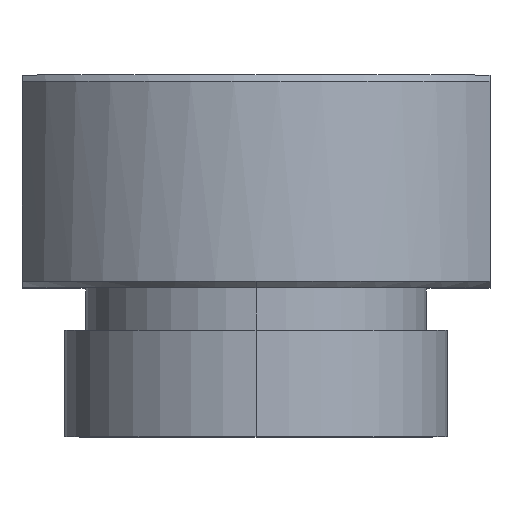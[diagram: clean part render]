
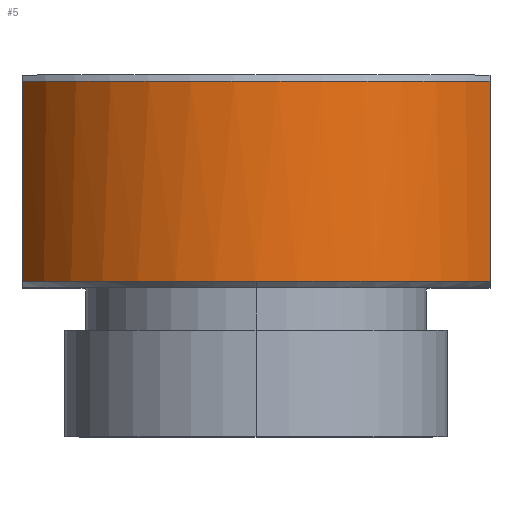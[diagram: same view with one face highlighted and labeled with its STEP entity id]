
A CAD part, top view. The second image highlights one B-rep face of the part: STEP entity #5.
In plain terms, the highlighted cylindrical face has radius 12.5 mm (diameter 25 mm), a partial arc.
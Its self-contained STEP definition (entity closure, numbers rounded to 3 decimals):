
#5 = ADVANCED_FACE ( 'NONE', ( #183 ), #895, .T. ) ;
#6 = LINE ( 'NONE', #238, #605 ) ;
#69 = CARTESIAN_POINT ( 'NONE',  ( 0., 0.3, 0. ) ) ;
#85 = VERTEX_POINT ( 'NONE', #584 ) ;
#105 = EDGE_CURVE ( 'NONE', #767, #673, #6, .T. ) ;
#131 = EDGE_CURVE ( 'NONE', #807, #673, #852, .T. ) ;
#136 = ORIENTED_EDGE ( 'NONE', *, *, #846, .F. ) ;
#183 = FACE_OUTER_BOUND ( 'NONE', #941, .T. ) ;
#202 = DIRECTION ( 'NONE',  ( 0., -1., 0. ) ) ;
#205 = CIRCLE ( 'NONE', #329, 12.5 ) ;
#238 = CARTESIAN_POINT ( 'NONE',  ( 11., 10., 5.937 ) ) ;
#287 = AXIS2_PLACEMENT_3D ( 'NONE', #894, #969, #441 ) ;
#329 = AXIS2_PLACEMENT_3D ( 'NONE', #531, #685, #534 ) ;
#343 = VECTOR ( 'NONE', #620, 1000. ) ;
#362 = DIRECTION ( 'NONE',  ( 0., 0., 1. ) ) ;
#441 = DIRECTION ( 'NONE',  ( 0., 0., 1. ) ) ;
#442 = ORIENTED_EDGE ( 'NONE', *, *, #479, .T. ) ;
#465 = CARTESIAN_POINT ( 'NONE',  ( 11., 0.3, 5.937 ) ) ;
#479 = EDGE_CURVE ( 'NONE', #767, #85, #205, .T. ) ;
#522 = AXIS2_PLACEMENT_3D ( 'NONE', #792, #202, #573 ) ;
#525 = DIRECTION ( 'NONE',  ( 0., -1., 0. ) ) ;
#531 = CARTESIAN_POINT ( 'NONE',  ( 0., 9.7, 0. ) ) ;
#534 = DIRECTION ( 'NONE',  ( 0., 0., 1. ) ) ;
#567 = AXIS2_PLACEMENT_3D ( 'NONE', #69, #577, #362 ) ;
#573 = DIRECTION ( 'NONE',  ( 0., 0., -1. ) ) ;
#577 = DIRECTION ( 'NONE',  ( 0., 1., 0. ) ) ;
#584 = CARTESIAN_POINT ( 'NONE',  ( -11., 9.7, 5.937 ) ) ;
#591 = CARTESIAN_POINT ( 'NONE',  ( 11., 9.7, 5.937 ) ) ;
#605 = VECTOR ( 'NONE', #525, 1000. ) ;
#606 = ORIENTED_EDGE ( 'NONE', *, *, #105, .F. ) ;
#620 = DIRECTION ( 'NONE',  ( 0., 1., 0. ) ) ;
#624 = CARTESIAN_POINT ( 'NONE',  ( -11., 0.3, 5.937 ) ) ;
#673 = VERTEX_POINT ( 'NONE', #465 ) ;
#685 = DIRECTION ( 'NONE',  ( 0., -1., 0. ) ) ;
#691 = VERTEX_POINT ( 'NONE', #624 ) ;
#734 = EDGE_CURVE ( 'NONE', #691, #807, #930, .T. ) ;
#739 = ORIENTED_EDGE ( 'NONE', *, *, #131, .T. ) ;
#767 = VERTEX_POINT ( 'NONE', #591 ) ;
#792 = CARTESIAN_POINT ( 'NONE',  ( 0., 10., 0. ) ) ;
#807 = VERTEX_POINT ( 'NONE', #892 ) ;
#818 = LINE ( 'NONE', #838, #343 ) ;
#838 = CARTESIAN_POINT ( 'NONE',  ( -11., 10., 5.937 ) ) ;
#846 = EDGE_CURVE ( 'NONE', #691, #85, #818, .T. ) ;
#852 = CIRCLE ( 'NONE', #287, 12.5 ) ;
#892 = CARTESIAN_POINT ( 'NONE',  ( 0., 0.3, 12.5 ) ) ;
#894 = CARTESIAN_POINT ( 'NONE',  ( 0., 0.3, 0. ) ) ;
#895 = CYLINDRICAL_SURFACE ( 'NONE', #522, 12.5 ) ;
#930 = CIRCLE ( 'NONE', #567, 12.5 ) ;
#941 = EDGE_LOOP ( 'NONE', ( #136, #951, #739, #606, #442 ) ) ;
#951 = ORIENTED_EDGE ( 'NONE', *, *, #734, .T. ) ;
#969 = DIRECTION ( 'NONE',  ( 0., 1., 0. ) ) ;
